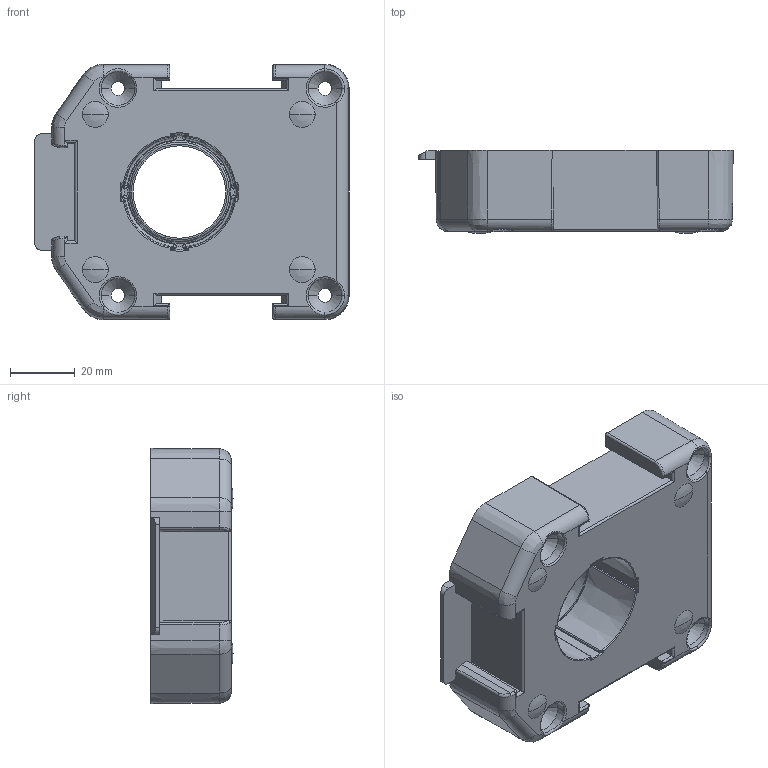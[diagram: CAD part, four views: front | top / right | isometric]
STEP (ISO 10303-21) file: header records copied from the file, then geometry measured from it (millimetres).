
FILE_DESCRIPTION((''),'2;1');
FILE_NAME('69_0040','2013-06-19T',('dsc'),(''),'PRO/ENGINEER BY PARAMETRIC TECHNOLOGY CORPORATION, 2012360','PRO/ENGINEER BY PARAMETRIC TECHNOLOGY CORPORATION, 2012360','');
FILE_SCHEMA(('CONFIG_CONTROL_DESIGN'));
Length unit declared in the file: millimetre
Products named in the file (1): 69_0040
Bounding box: 97.18 x 25.6 x 79 mm (x, y, z)
Volume: 34077.1 mm3; surface area: 47566.7 mm2
Topology: 1 solids, 1 shells, 775 faces, 1875 edges, 1096 vertices
Faces by surface type: bspline 246, cylinder 170, plane 167, torus 74, cone 72, sphere 46
Entity records: 32123 total; most frequent: CARTESIAN_POINT 15977, ORIENTED_EDGE 3734, DIRECTION 2911, EDGE_CURVE 1867, AXIS2_PLACEMENT_3D 1164, VERTEX_POINT 1096, EDGE_LOOP 787, FACE_OUTER_BOUND 775
